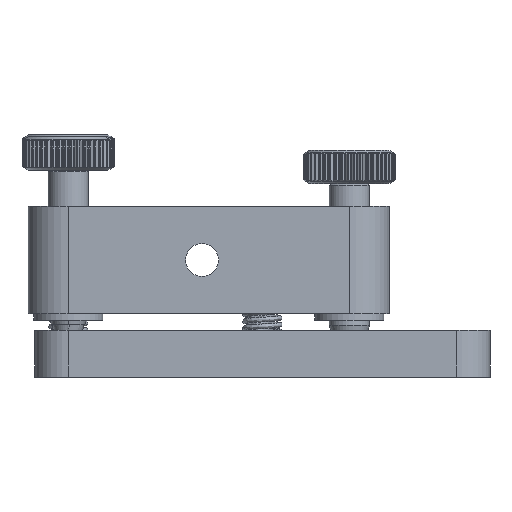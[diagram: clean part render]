
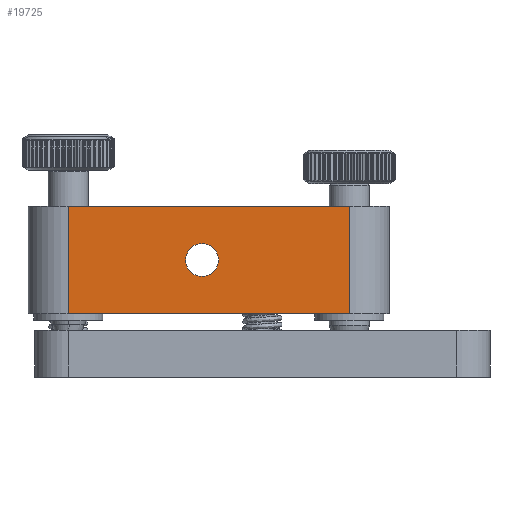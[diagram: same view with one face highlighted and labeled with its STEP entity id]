
A CAD part, front view. The second image highlights one B-rep face of the part: STEP entity #19725.
In plain terms, the highlighted planar face has unit normal (0, -1, 0).
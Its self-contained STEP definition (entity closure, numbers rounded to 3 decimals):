
#19482 = EDGE_CURVE ( 'NONE', #26563, #26427, #72840, .T. ) ;
#19666 = VERTEX_POINT ( 'NONE', #73145 ) ;
#19668 = EDGE_CURVE ( 'NONE', #23554, #19666, #73192, .T. ) ;
#19725 = ADVANCED_FACE ( 'NONE', ( #74951, #74950 ), #74949, .T. ) ;
#19726 = EDGE_LOOP ( 'NONE', ( #19783, #19784, #19785, #19788 ) ) ;
#19783 = ORIENTED_EDGE ( 'NONE', *, *, #23558, .F. ) ;
#19784 = ORIENTED_EDGE ( 'NONE', *, *, #19668, .T. ) ;
#19785 = ORIENTED_EDGE ( 'NONE', *, *, #19786, .F. ) ;
#19786 = EDGE_CURVE ( 'NONE', #19787, #19666, #75008, .T. ) ;
#19787 = VERTEX_POINT ( 'NONE', #75004 ) ;
#19788 = ORIENTED_EDGE ( 'NONE', *, *, #19789, .T. ) ;
#19789 = EDGE_CURVE ( 'NONE', #19787, #23480, #75003, .T. ) ;
#19790 = EDGE_LOOP ( 'NONE', ( #19791, #19792 ) ) ;
#19791 = ORIENTED_EDGE ( 'NONE', *, *, #19482, .T. ) ;
#19792 = ORIENTED_EDGE ( 'NONE', *, *, #26425, .T. ) ;
#23480 = VERTEX_POINT ( 'NONE', #53200 ) ;
#23554 = VERTEX_POINT ( 'NONE', #53322 ) ;
#23558 = EDGE_CURVE ( 'NONE', #23554, #23480, #53351, .T. ) ;
#26425 = EDGE_CURVE ( 'NONE', #26427, #26563, #61442, .T. ) ;
#26427 = VERTEX_POINT ( 'NONE', #61432 ) ;
#26563 = VERTEX_POINT ( 'NONE', #62670 ) ;
#53200 = CARTESIAN_POINT ( 'NONE',  ( 46.926, -0.038, 0. ) ) ;
#53322 = CARTESIAN_POINT ( 'NONE',  ( 46.926, -0.038, 16. ) ) ;
#53348 = DIRECTION ( 'NONE',  ( 0., 0., -1. ) ) ;
#53349 = VECTOR ( 'NONE', #53348, 1000. ) ;
#53350 = CARTESIAN_POINT ( 'NONE',  ( 46.926, -0.038, 0. ) ) ;
#53351 = LINE ( 'NONE', #53350, #53349 ) ;
#61432 = CARTESIAN_POINT ( 'NONE',  ( 27.384, -0.038, 8. ) ) ;
#61438 = DIRECTION ( 'NONE',  ( -1., 0., 0. ) ) ;
#61439 = DIRECTION ( 'NONE',  ( 0., 1., 0. ) ) ;
#61440 = CARTESIAN_POINT ( 'NONE',  ( 24.926, -0.038, 8. ) ) ;
#61441 = AXIS2_PLACEMENT_3D ( 'NONE', #61440, #61439, #61438 ) ;
#61442 = CIRCLE ( 'NONE', #61441, 2.458 ) ;
#62670 = CARTESIAN_POINT ( 'NONE',  ( 22.467, -0.038, 8. ) ) ;
#72840 = CIRCLE ( 'NONE', #72905, 2.458 ) ;
#72902 = DIRECTION ( 'NONE',  ( -1., 0., 0. ) ) ;
#72903 = DIRECTION ( 'NONE',  ( 0., 1., 0. ) ) ;
#72904 = CARTESIAN_POINT ( 'NONE',  ( 24.926, -0.038, 8. ) ) ;
#72905 = AXIS2_PLACEMENT_3D ( 'NONE', #72904, #72903, #72902 ) ;
#73145 = CARTESIAN_POINT ( 'NONE',  ( 4.926, -0.038, 16. ) ) ;
#73189 = DIRECTION ( 'NONE',  ( -1., 0., 0. ) ) ;
#73190 = VECTOR ( 'NONE', #73189, 1000. ) ;
#73191 = CARTESIAN_POINT ( 'NONE',  ( 10.926, -0.038, 16. ) ) ;
#73192 = LINE ( 'NONE', #73191, #73190 ) ;
#74945 = DIRECTION ( 'NONE',  ( 1., 0., 0. ) ) ;
#74946 = DIRECTION ( 'NONE',  ( 0., -1., 0. ) ) ;
#74947 = CARTESIAN_POINT ( 'NONE',  ( 10.926, -0.038, 0. ) ) ;
#74948 = AXIS2_PLACEMENT_3D ( 'NONE', #74947, #74946, #74945 ) ;
#74949 = PLANE ( 'NONE',  #74948 ) ;
#74950 = FACE_BOUND ( 'NONE', #19790, .T. ) ;
#74951 = FACE_OUTER_BOUND ( 'NONE', #19726, .T. ) ;
#75000 = DIRECTION ( 'NONE',  ( 1., 0., 0. ) ) ;
#75001 = VECTOR ( 'NONE', #75000, 1000. ) ;
#75002 = CARTESIAN_POINT ( 'NONE',  ( 4.926, -0.038, 0. ) ) ;
#75003 = LINE ( 'NONE', #75002, #75001 ) ;
#75004 = CARTESIAN_POINT ( 'NONE',  ( 4.926, -0.038, 0. ) ) ;
#75005 = DIRECTION ( 'NONE',  ( 0., 0., 1. ) ) ;
#75006 = VECTOR ( 'NONE', #75005, 1000. ) ;
#75007 = CARTESIAN_POINT ( 'NONE',  ( 4.926, -0.038, 0. ) ) ;
#75008 = LINE ( 'NONE', #75007, #75006 ) ;
